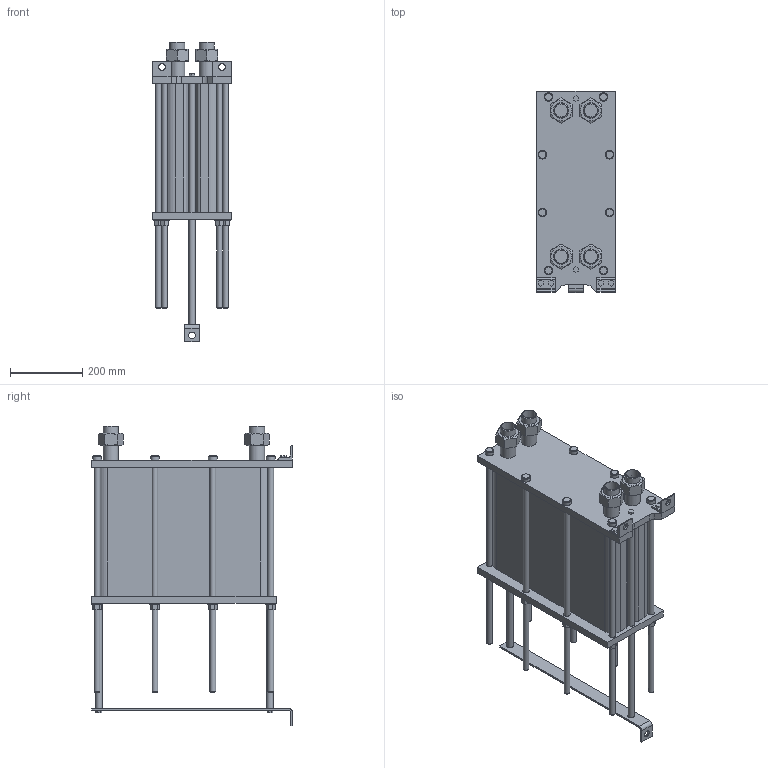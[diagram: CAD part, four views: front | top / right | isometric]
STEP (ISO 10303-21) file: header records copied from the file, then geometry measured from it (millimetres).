
FILE_DESCRIPTION(/* description */ (''),/* implementation_level */ '2;1');
FILE_NAME(/* name */ 'C:\Users\zhuro\Desktop\ENCO\TO\ЭН-004\ЭН-0,5-004-115-1.stp',/* time_stamp */ '2022-06-06T10:54:02+03:00',/* author */ ('zhuro'),/* organization */ (''),/* preprocessor_version */ 'ST-DEVELOPER v18.1',/* originating_system */ 'Autodesk Inventor 2022',/* authorisation */ '');
FILE_SCHEMA (('AUTOMOTIVE_DESIGN { 1 0 10303 214 3 1 1 }'));
Length unit declared in the file: millimetre
Products named in the file (1): ЭН-0,5-004-115-1
Bounding box: 216 x 555 x 829 mm (x, y, z)
Volume: 32543329.4 mm3; surface area: 1730505.5 mm2
Topology: 40 solids, 40 shells, 403 faces, 865 edges, 574 vertices
Faces by surface type: plane 272, cylinder 103, cone 28
Full cylindrical faces by diameter (mm): 10 x4, 16 x16, 18 x29, 20 x2, 24 x8, 28 x8, 36.3 x5, 42.3 x9
Entity records: 11137 total; most frequent: CARTESIAN_POINT 1939, DIRECTION 1879, ORIENTED_EDGE 1730, EDGE_CURVE 865, AXIS2_PLACEMENT_3D 658, VERTEX_POINT 574, LINE 563, VECTOR 563
